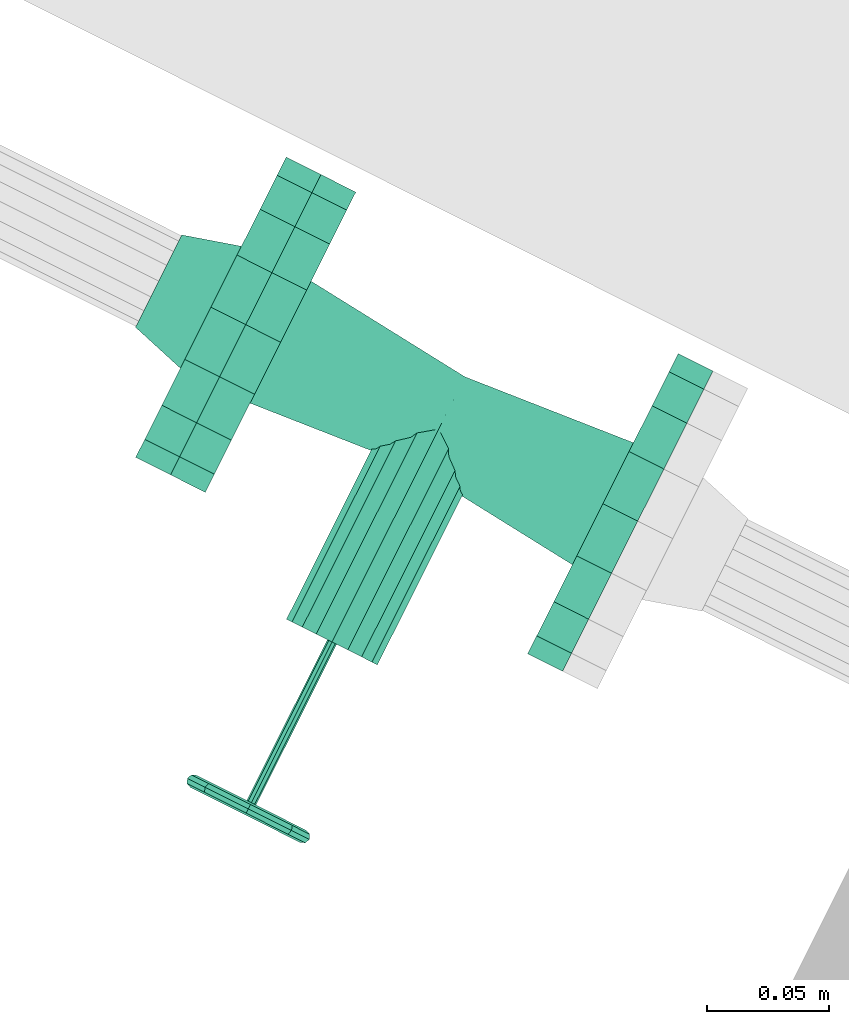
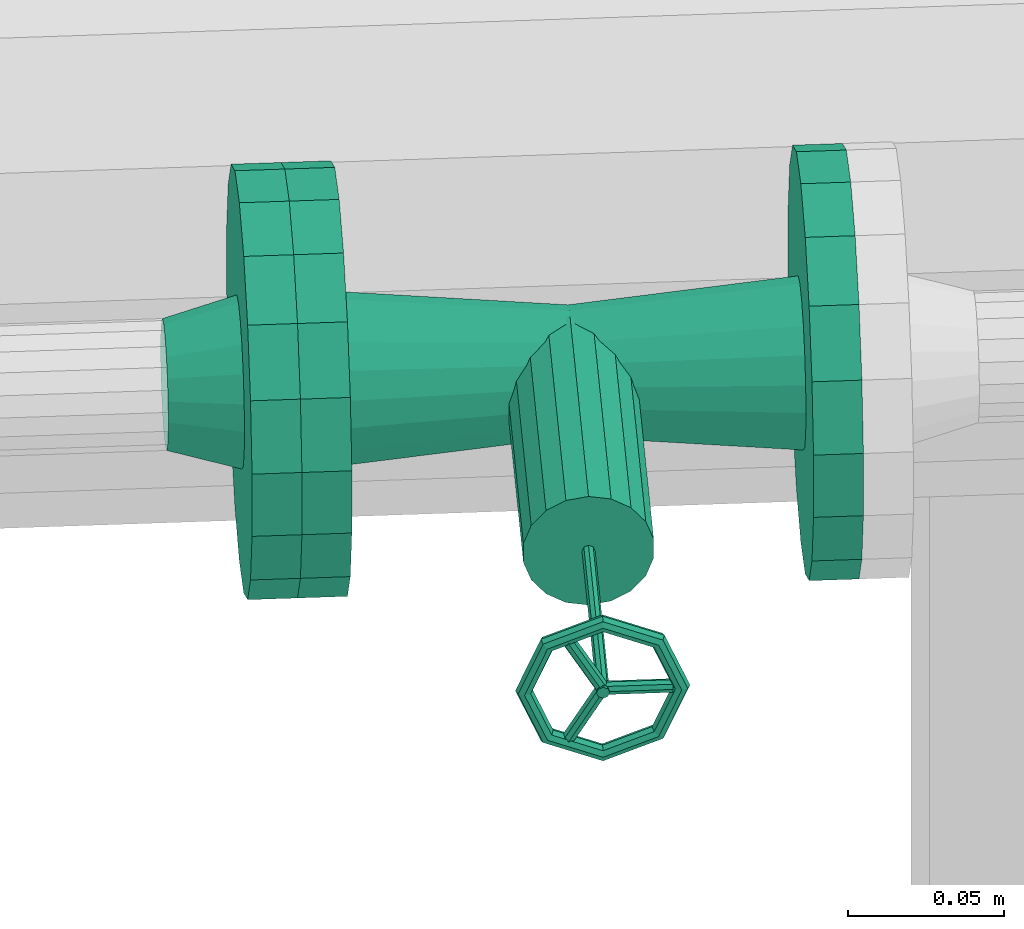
# One storey, part 86 of 206: 1 flow controller, 1 flow fitting.
"""IFC2X3 building model written with IfcOpenShell, lengths in metres."""

from ifc_helpers import new_model, si_unit, derived_unit, direction, frame, origin, place, context, subcontext, project, spatial, face_set, surface_model, source, transform, mapped, material, type_object, type_shapes, element, save


model = new_model("IFC2X3")

# Units and contexts
model_context = context("Model", 3, precision=5.2338327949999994e-05, world=origin(), true_north=direction((0.0, 1.0)))
body_context = subcontext(model_context, "Body", "Model", "MODEL_VIEW")
ifc_project = project(units=[si_unit("LENGTHUNIT", "METRE"), si_unit("AREAUNIT", "SQUARE_METRE"), si_unit("VOLUMEUNIT", "CUBIC_METRE"), si_unit("MASSUNIT", "GRAM", prefix="KILO"), si_unit("PLANEANGLEUNIT", "RADIAN"), derived_unit("THERMALTRANSMITTANCEUNIT", [(si_unit("MASSUNIT", "GRAM", prefix="KILO"), 1), (si_unit("THERMODYNAMICTEMPERATUREUNIT", "KELVIN"), -1), (si_unit("TIMEUNIT", "SECOND"), -3)])], contexts=[model_context])

# Site, building, storey
site_placement = place(None, frame((0.0, 0.0, 0.0), z_axis=(0.0, 0.0, 1.0), x_axis=(0.8939966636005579, -0.4480736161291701, 0.0)))
site = spatial("IfcSite", under=ifc_project, at=site_placement, Name="Default", CompositionType="ELEMENT")
building_placement = place(site_placement, origin())
building = spatial("IfcBuilding", under=site, at=building_placement, CompositionType="ELEMENT")
storey_placement = place(building_placement, origin())
storey = spatial("IfcBuildingStorey", under=building, at=storey_placement, Name="Erdgeschoss", CompositionType="ELEMENT", Elevation=0.0)

# Flow controller
ifc_material = material(Name="IfcSurfaceStyle #352577")
distribution_element_type_1 = type_object("IfcDistributionElementType", Name="Ventil 615460:Ventil 615460", material=ifc_material)
shared_shape_1 = source(origin(), body_context, "Body", "SurfaceModel", [
    surface_model("IfcFaceBasedSurfaceModel", [(28.668665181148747, 7.899962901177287, 2.6331641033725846), (28.668665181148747, 7.897983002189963, 2.6323440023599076), (28.68788427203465, 7.897983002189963, 2.624383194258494), (28.688464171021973, 7.899962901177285, 2.6249630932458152), (28.69584508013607, 7.89798300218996, 2.6051641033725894), (28.69666518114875, 7.89996290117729, 2.6051641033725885), (28.687884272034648, 7.897983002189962, 2.5859450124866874), (28.688464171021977, 7.8999629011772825, 2.5853651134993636), (28.668665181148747, 7.897983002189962, 2.577984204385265), (28.668665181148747, 7.899962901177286, 2.5771641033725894), (28.64944609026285, 7.897983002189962, 2.585945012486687), (28.648866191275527, 7.899962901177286, 2.5853651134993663), (28.641485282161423, 7.897983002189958, 2.6051641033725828), (28.640665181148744, 7.899962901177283, 2.605164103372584), (28.649446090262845, 7.897983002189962, 2.624383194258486), (28.648866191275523, 7.899962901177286, 2.6249630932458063), (28.668665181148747, 7.897162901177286, 2.6303641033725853), (28.686484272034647, 7.8971629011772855, 2.6229831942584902), (28.693865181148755, 7.897162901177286, 2.605164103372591), (28.686484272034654, 7.897162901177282, 2.5873450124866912), (28.66866518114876, 7.897162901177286, 2.579964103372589), (28.650846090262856, 7.8971629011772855, 2.5873450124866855), (28.643465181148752, 7.897162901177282, 2.6051641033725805), (28.650846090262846, 7.897162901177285, 2.622983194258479), (28.668665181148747, 7.897983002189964, 2.628384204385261), (28.685084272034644, 7.897983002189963, 2.6215831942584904), (28.691885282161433, 7.897983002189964, 2.6051641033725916), (28.68508427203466, 7.897983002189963, 2.588745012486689), (28.66866518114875, 7.8979830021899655, 2.581944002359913), (28.65224609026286, 7.897983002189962, 2.5887450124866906), (28.645445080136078, 7.89798300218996, 2.605164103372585), (28.65224609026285, 7.897983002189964, 2.6215831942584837), (28.668665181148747, 7.899962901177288, 2.627564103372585), (28.684504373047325, 7.899962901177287, 2.6210032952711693), (28.69106518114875, 7.899962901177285, 2.605164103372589), (28.68450437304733, 7.899962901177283, 2.5893249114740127), (28.66866518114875, 7.899962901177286, 2.5827641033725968), (28.652825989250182, 7.899962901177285, 2.589324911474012), (28.646265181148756, 7.899962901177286, 2.6051641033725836), (28.65282598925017, 7.899962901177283, 2.6210032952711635), (28.668665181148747, 7.901942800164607, 2.6283842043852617), (28.685084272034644, 7.9019428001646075, 2.6215831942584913), (28.69188528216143, 7.901942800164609, 2.605164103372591), (28.685084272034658, 7.90194280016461, 2.5887450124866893), (28.66866518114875, 7.901942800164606, 2.5819440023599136), (28.65224609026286, 7.9019428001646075, 2.588745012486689), (28.645445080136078, 7.901942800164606, 2.6051641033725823), (28.65224609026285, 7.901942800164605, 2.6215831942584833), (28.668665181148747, 7.9027629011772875, 2.6303641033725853), (28.686484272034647, 7.902762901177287, 2.6229831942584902), (28.69386518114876, 7.902762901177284, 2.6051641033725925), (28.686484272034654, 7.902762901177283, 2.5873450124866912), (28.66866518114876, 7.902762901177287, 2.579964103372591), (28.650846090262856, 7.902762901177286, 2.5873450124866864), (28.643465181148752, 7.902762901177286, 2.6051641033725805), (28.650846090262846, 7.902762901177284, 2.6229831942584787), (28.668665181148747, 7.901942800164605, 2.6323440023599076), (28.68788427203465, 7.9019428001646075, 2.6243831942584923), (28.69584508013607, 7.9019428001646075, 2.6051641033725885), (28.68788427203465, 7.901942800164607, 2.585945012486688), (28.66866518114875, 7.901942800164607, 2.577984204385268), (28.64944609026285, 7.901942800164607, 2.5859450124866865), (28.641485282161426, 7.901942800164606, 2.6051641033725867), (28.649446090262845, 7.901942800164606, 2.6243831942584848), (28.668665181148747, 7.899962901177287, 2.6029241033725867), (28.668665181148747, 7.901546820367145, 2.6035801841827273), (28.69106518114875, 7.901546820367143, 2.603580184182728), (28.691065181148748, 7.899962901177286, 2.602924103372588), (28.668665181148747, 7.902202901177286, 2.6051641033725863), (28.691065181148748, 7.902202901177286, 2.6051641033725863), (28.668665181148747, 7.901546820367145, 2.6067480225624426), (28.691065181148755, 7.901546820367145, 2.6067480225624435), (28.668665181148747, 7.899962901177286, 2.607404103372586), (28.691065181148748, 7.899962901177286, 2.6074041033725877), (28.668665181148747, 7.898378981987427, 2.6067480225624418), (28.69106518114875, 7.898378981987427, 2.606748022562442), (28.668665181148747, 7.897722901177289, 2.6051641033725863), (28.691065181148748, 7.897722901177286, 2.6051641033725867), (28.668665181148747, 7.8983789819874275, 2.6035801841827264), (28.691065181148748, 7.8983789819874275, 2.6035801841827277), (28.666725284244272, 7.899962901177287, 2.606284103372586), (28.667293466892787, 7.901546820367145, 2.605956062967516), (28.65609346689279, 7.901546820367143, 2.5865570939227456), (28.655525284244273, 7.899962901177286, 2.586885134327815), (28.657465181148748, 7.902202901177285, 2.5857651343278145), (28.670036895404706, 7.9015468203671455, 2.6043721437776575), (28.6588368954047, 7.901546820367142, 2.5849731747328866), (28.670605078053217, 7.899962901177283, 2.6040441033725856), (28.659405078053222, 7.899962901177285, 2.5846451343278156), (28.670036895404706, 7.898378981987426, 2.604372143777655), (28.658836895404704, 7.898378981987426, 2.5849731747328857), (28.657465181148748, 7.897722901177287, 2.585765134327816), (28.66729346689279, 7.8983789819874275, 2.605956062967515), (28.656093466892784, 7.8983789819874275, 2.5865570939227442), (28.670605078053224, 7.899962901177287, 2.6062841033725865), (28.670036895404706, 7.9015468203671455, 2.605956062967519), (28.658836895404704, 7.9015468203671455, 2.6253550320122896), (28.659405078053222, 7.899962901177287, 2.6256830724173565), (28.657465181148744, 7.902202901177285, 2.6245630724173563), (28.66729346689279, 7.901546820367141, 2.604372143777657), (28.65609346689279, 7.901546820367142, 2.6237711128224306), (28.666725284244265, 7.899962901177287, 2.6040441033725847), (28.655525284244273, 7.899962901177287, 2.6234430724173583), (28.66729346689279, 7.8983789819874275, 2.6043721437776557), (28.65609346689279, 7.8983789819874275, 2.62377111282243), (28.657465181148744, 7.897722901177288, 2.62456307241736), (28.670036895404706, 7.898378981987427, 2.605956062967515), (28.658836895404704, 7.8983789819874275, 2.6253550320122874), (28.578665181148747, 8.077162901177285, 2.535164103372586), (28.578665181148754, 8.101104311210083, 2.5393856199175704), (28.594665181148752, 8.10110431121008, 2.5393856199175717), (28.594665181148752, 8.077162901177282, 2.535164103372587), (28.57866518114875, 8.122158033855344, 2.55154099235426), (28.594665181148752, 8.122158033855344, 2.5515409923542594), (28.578665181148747, 8.137784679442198, 2.5701641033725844), (28.594665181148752, 8.137784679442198, 2.570164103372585), (28.578665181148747, 8.14609944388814, 2.5930087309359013), (28.594665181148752, 8.146099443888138, 2.5930087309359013), (28.57866518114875, 8.14609944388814, 2.61731947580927), (28.594665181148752, 8.146099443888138, 2.61731947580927), (28.578665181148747, 8.137784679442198, 2.6401641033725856), (28.594665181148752, 8.137784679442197, 2.6401641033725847), (28.578665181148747, 8.122158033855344, 2.6587872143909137), (28.594665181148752, 8.122158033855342, 2.658787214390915), (28.57866518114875, 8.10110431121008, 2.6709425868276), (28.594665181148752, 8.10110431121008, 2.670942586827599), (28.57866518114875, 8.077162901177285, 2.675164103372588), (28.594665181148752, 8.077162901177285, 2.675164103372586), (28.57866518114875, 8.053221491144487, 2.670942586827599), (28.594665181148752, 8.053221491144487, 2.670942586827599), (28.57866518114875, 8.03216776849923, 2.6587872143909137), (28.594665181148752, 8.03216776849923, 2.658787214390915), (28.578665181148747, 8.016541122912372, 2.640164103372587), (28.594665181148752, 8.016541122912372, 2.640164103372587), (28.578665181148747, 8.008226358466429, 2.6173194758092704), (28.594665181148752, 8.008226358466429, 2.6173194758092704), (28.578665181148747, 8.008226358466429, 2.5930087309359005), (28.594665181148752, 8.008226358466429, 2.5930087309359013), (28.578665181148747, 8.016541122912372, 2.5701641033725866), (28.594665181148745, 8.016541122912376, 2.570164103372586), (28.578665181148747, 8.03216776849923, 2.5515409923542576), (28.594665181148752, 8.03216776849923, 2.5515409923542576), (28.578665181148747, 8.05322149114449, 2.539385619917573), (28.594665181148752, 8.053221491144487, 2.5393856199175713), (28.578665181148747, 8.077162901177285, 2.6051641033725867), (28.594665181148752, 8.077162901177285, 2.6051641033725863), (28.59466518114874, 8.105162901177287, 2.6051641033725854), (28.594665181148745, 8.10347429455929, 2.6147406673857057), (28.668665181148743, 8.097084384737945, 2.6124149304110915), (28.668665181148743, 8.098362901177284, 2.6051641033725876), (28.594665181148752, 8.098612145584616, 2.623162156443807), (28.668665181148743, 8.093403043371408, 2.61879120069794), (28.59466518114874, 8.091162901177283, 2.629412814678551), (28.668665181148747, 8.087762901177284, 2.6235238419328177), (28.594665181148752, 8.082025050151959, 2.6327387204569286), (28.668665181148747, 8.080844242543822, 2.626042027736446), (28.594665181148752, 8.072300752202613, 2.6327387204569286), (28.668665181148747, 8.073481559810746, 2.626042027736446), (28.59466518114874, 8.063162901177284, 2.6294128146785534), (28.668665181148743, 8.066562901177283, 2.6235238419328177), (28.594665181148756, 8.055713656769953, 2.623162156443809), (28.668665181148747, 8.060922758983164, 2.6187912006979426), (28.594665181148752, 8.050851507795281, 2.6147406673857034), (28.668665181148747, 8.057241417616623, 2.6124149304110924), (28.594665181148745, 8.049162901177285, 2.6051641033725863), (28.668665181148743, 8.055962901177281, 2.6051641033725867), (28.594665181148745, 8.050851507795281, 2.5955875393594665), (28.668665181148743, 8.057241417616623, 2.5979132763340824), (28.594665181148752, 8.055713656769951, 2.5871660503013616), (28.668665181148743, 8.060922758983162, 2.5915370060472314), (28.594665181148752, 8.063162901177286, 2.5809153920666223), (28.668665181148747, 8.066562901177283, 2.586804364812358), (28.594665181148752, 8.072300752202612, 2.5775894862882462), (28.668665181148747, 8.073481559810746, 2.5842861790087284), (28.594665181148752, 8.08202505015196, 2.577589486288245), (28.668665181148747, 8.080844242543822, 2.584286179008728), (28.59466518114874, 8.091162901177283, 2.58091539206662), (28.668665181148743, 8.087762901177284, 2.5868043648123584), (28.594665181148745, 8.098612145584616, 2.5871660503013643), (28.668665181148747, 8.093403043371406, 2.5915370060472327), (28.594665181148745, 8.103474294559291, 2.595587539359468), (28.668665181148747, 8.097084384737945, 2.5979132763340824), (28.742665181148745, 8.103474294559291, 2.6147406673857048), (28.742665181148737, 8.105162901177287, 2.6051641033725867), (28.742665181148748, 8.098612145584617, 2.623162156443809), (28.742665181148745, 8.091162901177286, 2.6294128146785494), (28.742665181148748, 8.08202505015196, 2.6327387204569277), (28.742665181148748, 8.072300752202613, 2.632738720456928), (28.742665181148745, 8.063162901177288, 2.6294128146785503), (28.742665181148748, 8.055713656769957, 2.623162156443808), (28.742665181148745, 8.050851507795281, 2.6147406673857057), (28.742665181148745, 8.049162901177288, 2.6051641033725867), (28.742665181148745, 8.050851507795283, 2.595587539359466), (28.742665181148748, 8.055713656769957, 2.5871660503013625), (28.742665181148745, 8.06316290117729, 2.58091539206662), (28.742665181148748, 8.072300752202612, 2.577589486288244), (28.742665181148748, 8.08202505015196, 2.577589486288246), (28.742665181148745, 8.091162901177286, 2.5809153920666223), (28.742665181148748, 8.098612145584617, 2.5871660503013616), (28.742665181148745, 8.10347429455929, 2.595587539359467), (28.74266518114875, 8.077162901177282, 2.535164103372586), (28.742665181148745, 8.101104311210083, 2.539385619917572), (28.758665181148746, 8.10110431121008, 2.5393856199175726), (28.758665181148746, 8.077162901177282, 2.5351641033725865), (28.74266518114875, 8.122158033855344, 2.55154099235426), (28.758665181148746, 8.122158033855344, 2.5515409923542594), (28.742665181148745, 8.137784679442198, 2.570164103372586), (28.758665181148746, 8.137784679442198, 2.5701641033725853), (28.74266518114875, 8.14609944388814, 2.5930087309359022), (28.758665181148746, 8.146099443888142, 2.5930087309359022), (28.742665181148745, 8.14609944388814, 2.6173194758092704), (28.758665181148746, 8.146099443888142, 2.61731947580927), (28.742665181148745, 8.137784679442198, 2.6401641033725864), (28.75866518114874, 8.137784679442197, 2.640164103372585), (28.742665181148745, 8.122158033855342, 2.6587872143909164), (28.758665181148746, 8.122158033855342, 2.6587872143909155), (28.742665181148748, 8.101104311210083, 2.6709425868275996), (28.758665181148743, 8.101104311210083, 2.670942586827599), (28.742665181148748, 8.077162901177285, 2.6751641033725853), (28.758665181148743, 8.077162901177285, 2.6751641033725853), (28.742665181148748, 8.053221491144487, 2.6709425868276), (28.758665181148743, 8.053221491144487, 2.6709425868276), (28.74266518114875, 8.032167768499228, 2.658787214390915), (28.758665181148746, 8.03216776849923, 2.6587872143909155), (28.742665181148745, 8.016541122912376, 2.640164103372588), (28.758665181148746, 8.016541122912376, 2.640164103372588), (28.74266518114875, 8.008226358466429, 2.6173194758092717), (28.758665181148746, 8.008226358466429, 2.6173194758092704), (28.742665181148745, 8.008226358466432, 2.593008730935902), (28.758665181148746, 8.008226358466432, 2.5930087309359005), (28.742665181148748, 8.016541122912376, 2.5701641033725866), (28.758665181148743, 8.016541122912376, 2.570164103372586), (28.742665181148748, 8.03216776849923, 2.551540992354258), (28.758665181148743, 8.03216776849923, 2.551540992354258), (28.74266518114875, 8.05322149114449, 2.539385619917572), (28.758665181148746, 8.05322149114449, 2.5393856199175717), (28.742665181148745, 8.077162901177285, 2.6051641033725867), (28.758665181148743, 8.077162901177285, 2.6051641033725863), (28.668665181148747, 8.077162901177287, 2.583964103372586), (28.67591600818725, 8.077162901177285, 2.5852426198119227), (28.67591600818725, 7.976562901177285, 2.585242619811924), (28.668665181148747, 7.976562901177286, 2.5839641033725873), (28.682292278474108, 8.077162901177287, 2.588923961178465), (28.682292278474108, 7.976562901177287, 2.588923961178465), (28.687024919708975, 8.077162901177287, 2.5945641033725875), (28.687024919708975, 7.976562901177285, 2.594564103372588), (28.68954310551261, 8.077162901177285, 2.601482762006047), (28.68954310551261, 7.976562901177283, 2.6014827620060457), (28.68954310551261, 8.077162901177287, 2.608845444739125), (28.68954310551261, 7.976562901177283, 2.6088454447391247), (28.68702491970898, 8.077162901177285, 2.6157641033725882), (28.68702491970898, 7.9765629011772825, 2.6157641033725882), (28.682292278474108, 8.077162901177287, 2.6214042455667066), (28.682292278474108, 7.976562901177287, 2.6214042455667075), (28.67591600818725, 8.077162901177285, 2.6250855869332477), (28.67591600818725, 7.976562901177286, 2.6250855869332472), (28.668665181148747, 8.077162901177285, 2.6263641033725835), (28.668665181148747, 7.976562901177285, 2.6263641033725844), (28.66141435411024, 8.077162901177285, 2.6250855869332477), (28.66141435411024, 7.976562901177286, 2.6250855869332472), (28.655038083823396, 8.077162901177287, 2.621404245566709), (28.655038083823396, 7.976562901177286, 2.6214042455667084), (28.65030544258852, 8.077162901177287, 2.6157641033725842), (28.65030544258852, 7.976562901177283, 2.6157641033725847), (28.647787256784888, 8.077162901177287, 2.608845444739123), (28.647787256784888, 7.976562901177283, 2.608845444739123), (28.647787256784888, 8.077162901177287, 2.601482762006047), (28.647787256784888, 7.976562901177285, 2.601482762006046), (28.65030544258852, 8.077162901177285, 2.5945641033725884), (28.65030544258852, 7.976562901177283, 2.5945641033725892), (28.6550380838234, 8.077162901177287, 2.5889239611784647), (28.655038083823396, 7.976562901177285, 2.588923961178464), (28.66141435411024, 8.077162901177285, 2.5852426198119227), (28.661414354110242, 7.976562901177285, 2.585242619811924), (28.668665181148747, 8.077162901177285, 2.6051641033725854), (28.668665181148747, 7.976562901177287, 2.605164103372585), (28.668665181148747, 7.976562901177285, 2.6030441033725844), (28.67016424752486, 7.976562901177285, 2.6036650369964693), (28.67016424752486, 7.897162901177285, 2.603665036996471), (28.668665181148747, 7.8971629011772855, 2.6030441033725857), (28.67078518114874, 7.976562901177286, 2.605164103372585), (28.67078518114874, 7.897162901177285, 2.6051641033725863), (28.670164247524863, 7.976562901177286, 2.606663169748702), (28.67016424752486, 7.897162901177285, 2.6066631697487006), (28.668665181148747, 7.976562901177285, 2.6072841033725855), (28.668665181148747, 7.8971629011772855, 2.607284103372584), (28.66716611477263, 7.9765629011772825, 2.6066631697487), (28.66716611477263, 7.897162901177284, 2.6066631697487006), (28.66654518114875, 7.976562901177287, 2.605164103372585), (28.66654518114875, 7.8971629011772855, 2.6051641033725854), (28.66716611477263, 7.976562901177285, 2.6036650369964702), (28.66716611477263, 7.897162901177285, 2.603665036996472), (28.668665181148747, 7.8971629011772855, 2.6051641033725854)], [face_set([[[0, 1, 2, 3]], [[3, 2, 4, 5]], [[5, 4, 6, 7]], [[7, 6, 8, 9]], [[9, 8, 10, 11]], [[11, 10, 12, 13]], [[13, 12, 14, 15]], [[15, 14, 1, 0]], [[1, 16, 17, 2]], [[2, 17, 18, 4]], [[4, 18, 19, 6]], [[6, 19, 20, 8]], [[8, 20, 21, 10]], [[10, 21, 22, 12]], [[12, 22, 23, 14]], [[14, 23, 16, 1]], [[16, 24, 25, 17]], [[17, 25, 26, 18]], [[18, 26, 27, 19]], [[19, 27, 28, 20]], [[20, 28, 29, 21]], [[21, 29, 30, 22]], [[22, 30, 31, 23]], [[23, 31, 24, 16]], [[24, 32, 33, 25]], [[25, 33, 34, 26]], [[26, 34, 35, 27]], [[27, 35, 36, 28]], [[28, 36, 37, 29]], [[29, 37, 38, 30]], [[30, 38, 39, 31]], [[31, 39, 32, 24]], [[32, 40, 41, 33]], [[33, 41, 42, 34]], [[34, 42, 43, 35]], [[35, 43, 44, 36]], [[36, 44, 45, 37]], [[37, 45, 46, 38]], [[38, 46, 47, 39]], [[39, 47, 40, 32]], [[40, 48, 49, 41]], [[41, 49, 50, 42]], [[42, 50, 51, 43]], [[43, 51, 52, 44]], [[44, 52, 53, 45]], [[45, 53, 54, 46]], [[46, 54, 55, 47]], [[47, 55, 48, 40]], [[48, 56, 57, 49]], [[49, 57, 58, 50]], [[50, 58, 59, 51]], [[51, 59, 60, 52]], [[52, 60, 61, 53]], [[53, 61, 62, 54]], [[54, 62, 63, 55]], [[55, 63, 56, 48]], [[56, 0, 3, 57]], [[57, 3, 5, 58]], [[58, 5, 7, 59]], [[59, 7, 9, 60]], [[60, 9, 11, 61]], [[61, 11, 13, 62]], [[62, 13, 15, 63]], [[63, 15, 0, 56]], [[64, 65, 66, 67]], [[65, 68, 69, 66]], [[68, 70, 71, 69]], [[70, 72, 73, 71]], [[72, 74, 75, 73]], [[74, 76, 77, 75]], [[76, 78, 79, 77]], [[78, 64, 67, 79]], [[80, 81, 82, 83]], [[81, 68, 84, 82]], [[68, 85, 86, 84]], [[85, 87, 88, 86]], [[87, 89, 90, 88]], [[89, 76, 91, 90]], [[76, 92, 93, 91]], [[92, 80, 83, 93]], [[94, 95, 96, 97]], [[95, 68, 98, 96]], [[68, 99, 100, 98]], [[99, 101, 102, 100]], [[101, 103, 104, 102]], [[103, 76, 105, 104]], [[76, 106, 107, 105]], [[106, 94, 97, 107]], [[108, 109, 110, 111]], [[109, 112, 113, 110]], [[112, 114, 115, 113]], [[114, 116, 117, 115]], [[116, 118, 119, 117]], [[118, 120, 121, 119]], [[120, 122, 123, 121]], [[122, 124, 125, 123]], [[124, 126, 127, 125]], [[126, 128, 129, 127]], [[128, 130, 131, 129]], [[130, 132, 133, 131]], [[132, 134, 135, 133]], [[134, 136, 137, 135]], [[136, 138, 139, 137]], [[138, 140, 141, 139]], [[140, 142, 143, 141]], [[142, 108, 111, 143]], [[144, 109, 108]], [[144, 112, 109]], [[144, 114, 112]], [[144, 116, 114]], [[144, 118, 116]], [[144, 120, 118]], [[144, 122, 120]], [[144, 124, 122]], [[144, 126, 124]], [[144, 128, 126]], [[144, 130, 128]], [[144, 132, 130]], [[144, 134, 132]], [[144, 136, 134]], [[144, 138, 136]], [[144, 140, 138]], [[144, 142, 140]], [[144, 108, 142]], [[145, 143, 111]], [[145, 141, 143]], [[145, 139, 141]], [[145, 137, 139]], [[145, 135, 137]], [[145, 133, 135]], [[145, 131, 133]], [[145, 129, 131]], [[145, 127, 129]], [[145, 125, 127]], [[145, 123, 125]], [[145, 121, 123]], [[145, 119, 121]], [[145, 117, 119]], [[145, 115, 117]], [[145, 113, 115]], [[145, 110, 113]], [[145, 111, 110]], [[146, 147, 148, 149]], [[147, 150, 151, 148]], [[150, 152, 153, 151]], [[152, 154, 155, 153]], [[154, 156, 157, 155]], [[156, 158, 159, 157]], [[158, 160, 161, 159]], [[160, 162, 163, 161]], [[162, 164, 165, 163]], [[164, 166, 167, 165]], [[166, 168, 169, 167]], [[168, 170, 171, 169]], [[170, 172, 173, 171]], [[172, 174, 175, 173]], [[174, 176, 177, 175]], [[176, 178, 179, 177]], [[178, 180, 181, 179]], [[180, 146, 149, 181]], [[149, 148, 182, 183]], [[148, 151, 184, 182]], [[151, 153, 185, 184]], [[153, 155, 186, 185]], [[155, 157, 187, 186]], [[157, 159, 188, 187]], [[159, 161, 189, 188]], [[161, 163, 190, 189]], [[163, 165, 191, 190]], [[165, 167, 192, 191]], [[167, 169, 193, 192]], [[169, 171, 194, 193]], [[171, 173, 195, 194]], [[173, 175, 196, 195]], [[175, 177, 197, 196]], [[177, 179, 198, 197]], [[179, 181, 199, 198]], [[181, 149, 183, 199]], [[200, 201, 202, 203]], [[201, 204, 205, 202]], [[204, 206, 207, 205]], [[206, 208, 209, 207]], [[208, 210, 211, 209]], [[210, 212, 213, 211]], [[212, 214, 215, 213]], [[214, 216, 217, 215]], [[216, 218, 219, 217]], [[218, 220, 221, 219]], [[220, 222, 223, 221]], [[222, 224, 225, 223]], [[224, 226, 227, 225]], [[226, 228, 229, 227]], [[228, 230, 231, 229]], [[230, 232, 233, 231]], [[232, 234, 235, 233]], [[234, 200, 203, 235]], [[236, 201, 200]], [[236, 204, 201]], [[236, 206, 204]], [[236, 208, 206]], [[236, 210, 208]], [[236, 212, 210]], [[236, 214, 212]], [[236, 216, 214]], [[236, 218, 216]], [[236, 220, 218]], [[236, 222, 220]], [[236, 224, 222]], [[236, 226, 224]], [[236, 228, 226]], [[236, 230, 228]], [[236, 232, 230]], [[236, 234, 232]], [[236, 200, 234]], [[237, 235, 203]], [[237, 233, 235]], [[237, 231, 233]], [[237, 229, 231]], [[237, 227, 229]], [[237, 225, 227]], [[237, 223, 225]], [[237, 221, 223]], [[237, 219, 221]], [[237, 217, 219]], [[237, 215, 217]], [[237, 213, 215]], [[237, 211, 213]], [[237, 209, 211]], [[237, 207, 209]], [[237, 205, 207]], [[237, 202, 205]], [[237, 203, 202]], [[238, 239, 240, 241]], [[239, 242, 243, 240]], [[242, 244, 245, 243]], [[244, 246, 247, 245]], [[246, 248, 249, 247]], [[248, 250, 251, 249]], [[250, 252, 253, 251]], [[252, 254, 255, 253]], [[254, 256, 257, 255]], [[256, 258, 259, 257]], [[258, 260, 261, 259]], [[260, 262, 263, 261]], [[262, 264, 265, 263]], [[264, 266, 267, 265]], [[266, 268, 269, 267]], [[268, 270, 271, 269]], [[270, 272, 273, 271]], [[272, 238, 241, 273]], [[274, 239, 238]], [[274, 242, 239]], [[274, 244, 242]], [[274, 246, 244]], [[274, 248, 246]], [[274, 250, 248]], [[274, 252, 250]], [[274, 254, 252]], [[274, 256, 254]], [[274, 258, 256]], [[274, 260, 258]], [[274, 262, 260]], [[274, 264, 262]], [[274, 266, 264]], [[274, 268, 266]], [[274, 270, 268]], [[274, 272, 270]], [[274, 238, 272]], [[275, 273, 241]], [[275, 271, 273]], [[275, 269, 271]], [[275, 267, 269]], [[275, 265, 267]], [[275, 263, 265]], [[275, 261, 263]], [[275, 259, 261]], [[275, 257, 259]], [[275, 255, 257]], [[275, 253, 255]], [[275, 251, 253]], [[275, 249, 251]], [[275, 247, 249]], [[275, 245, 247]], [[275, 243, 245]], [[275, 240, 243]], [[275, 241, 240]], [[276, 277, 278, 279]], [[277, 280, 281, 278]], [[280, 282, 283, 281]], [[282, 284, 285, 283]], [[284, 286, 287, 285]], [[286, 288, 289, 287]], [[288, 290, 291, 289]], [[290, 276, 279, 291]], [[292, 291, 279]], [[292, 289, 291]], [[292, 287, 289]], [[292, 285, 287]], [[292, 283, 285]], [[292, 281, 283]], [[292, 278, 281]], [[292, 279, 278]]])]),
])
type_shapes(distribution_element_type_1, [shared_shape_1])
flow_controller_placement = place(storey_placement, origin())
element("IfcFlowController", 1, at=flow_controller_placement, inside=storey, type_object=distribution_element_type_1, material=ifc_material, Name="Ventil", ObjectType="Ventil", context=body_context, shape_type="MappedRepresentation", body=[
    mapped(shared_shape_1, transform((0.0, 0.0, 0.0), scale=1.0)),
])

# Flow fitting
distribution_element_type_2 = type_object("IfcDistributionElementType", Name="Flansch 617588:Flansch 617588", material=ifc_material)
shared_shape_2 = source(origin(), body_context, "Body", "SurfaceModel", [
    surface_model("IfcFaceBasedSurfaceModel", [(28.57866518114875, 8.077162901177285, 2.6751641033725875), (28.57866518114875, 8.10110431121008, 2.6709425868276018), (28.56266518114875, 8.10110431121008, 2.6709425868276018), (28.56266518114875, 8.077162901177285, 2.6751641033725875), (28.57866518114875, 8.12215803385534, 2.6587872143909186), (28.56266518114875, 8.12215803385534, 2.6587872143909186), (28.57866518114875, 8.137784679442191, 2.64016410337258), (28.56266518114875, 8.137784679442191, 2.64016410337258), (28.57866518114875, 8.146099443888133, 2.6173194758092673), (28.56266518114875, 8.146099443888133, 2.6173194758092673), (28.57866518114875, 8.14609944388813, 2.5930087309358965), (28.56266518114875, 8.14609944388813, 2.5930087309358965), (28.57866518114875, 8.137784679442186, 2.570164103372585), (28.56266518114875, 8.137784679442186, 2.570164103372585), (28.57866518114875, 8.12215803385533, 2.5515409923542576), (28.56266518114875, 8.12215803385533, 2.5515409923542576), (28.57866518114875, 8.101104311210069, 2.539385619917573), (28.56266518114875, 8.101104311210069, 2.539385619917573), (28.57866518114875, 8.077162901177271, 2.5351641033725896), (28.56266518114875, 8.077162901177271, 2.5351641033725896), (28.57866518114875, 8.053221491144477, 2.5393856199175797), (28.56266518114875, 8.053221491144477, 2.5393856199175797), (28.57866518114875, 8.032167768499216, 2.551540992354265), (28.56266518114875, 8.032167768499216, 2.551540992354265), (28.57866518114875, 8.016541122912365, 2.5701641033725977), (28.56266518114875, 8.016541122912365, 2.5701641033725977), (28.57866518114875, 8.008226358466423, 2.59300873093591), (28.56266518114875, 8.008226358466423, 2.59300873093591), (28.57866518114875, 8.008226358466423, 2.6173194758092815), (28.56266518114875, 8.008226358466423, 2.6173194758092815), (28.57866518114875, 8.016541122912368, 2.6401641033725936), (28.56266518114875, 8.016541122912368, 2.6401641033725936), (28.57866518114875, 8.032167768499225, 2.658787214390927), (28.56266518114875, 8.032167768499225, 2.658787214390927), (28.57866518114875, 8.053221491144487, 2.670942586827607), (28.56266518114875, 8.053221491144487, 2.670942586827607), (28.56266518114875, 8.077162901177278, 2.6051641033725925), (28.56266518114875, 8.105162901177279, 2.6051641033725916), (28.56266518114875, 8.103474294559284, 2.5955875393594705), (28.53866518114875, 8.09708438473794, 2.59791327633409), (28.53866518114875, 8.098362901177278, 2.6051641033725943), (28.56266518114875, 8.098612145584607, 2.587166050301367), (28.53866518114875, 8.0934030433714, 2.591537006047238), (28.56266518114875, 8.091162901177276, 2.5809153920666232), (28.53866518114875, 8.087762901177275, 2.5868043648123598), (28.56266518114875, 8.08202505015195, 2.577589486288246), (28.53866518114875, 8.080844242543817, 2.584286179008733), (28.56266518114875, 8.072300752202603, 2.5775894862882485), (28.53866518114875, 8.073481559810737, 2.5842861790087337), (28.56266518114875, 8.063162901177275, 2.5809153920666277), (28.53866518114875, 8.066562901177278, 2.586804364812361), (28.56266518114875, 8.055713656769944, 2.587166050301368), (28.53866518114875, 8.060922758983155, 2.591537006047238), (28.56266518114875, 8.05085150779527, 2.595587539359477), (28.53866518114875, 8.057241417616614, 2.5979132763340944), (28.56266518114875, 8.049162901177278, 2.6051641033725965), (28.53866518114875, 8.055962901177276, 2.6051641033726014), (28.56266518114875, 8.050851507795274, 2.614740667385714), (28.53866518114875, 8.057241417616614, 2.612414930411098), (28.56266518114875, 8.05571365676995, 2.6231621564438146), (28.53866518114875, 8.060922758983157, 2.6187912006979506), (28.56266518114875, 8.06316290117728, 2.629412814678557), (28.53866518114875, 8.066562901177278, 2.6235238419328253), (28.56266518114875, 8.072300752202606, 2.6327387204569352), (28.53866518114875, 8.073481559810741, 2.6260420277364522), (28.56266518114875, 8.082025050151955, 2.6327387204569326), (28.53866518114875, 8.080844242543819, 2.6260420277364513), (28.56266518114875, 8.091162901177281, 2.6294128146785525), (28.53866518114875, 8.08776290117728, 2.623523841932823), (28.56266518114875, 8.098612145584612, 2.6231621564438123), (28.53866518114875, 8.093403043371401, 2.6187912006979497), (28.56266518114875, 8.103474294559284, 2.6147406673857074), (28.53866518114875, 8.09708438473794, 2.612414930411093)], [face_set([[[0, 1, 2, 3]], [[1, 4, 5, 2]], [[4, 6, 7, 5]], [[6, 8, 9, 7]], [[8, 10, 11, 9]], [[10, 12, 13, 11]], [[12, 14, 15, 13]], [[14, 16, 17, 15]], [[16, 18, 19, 17]], [[18, 20, 21, 19]], [[20, 22, 23, 21]], [[22, 24, 25, 23]], [[24, 26, 27, 25]], [[26, 28, 29, 27]], [[28, 30, 31, 29]], [[30, 32, 33, 31]], [[32, 34, 35, 33]], [[34, 0, 3, 35]], [[36, 35, 3]], [[36, 33, 35]], [[36, 31, 33]], [[36, 29, 31]], [[36, 27, 29]], [[36, 25, 27]], [[36, 23, 25]], [[36, 21, 23]], [[36, 19, 21]], [[36, 17, 19]], [[36, 15, 17]], [[36, 13, 15]], [[36, 11, 13]], [[36, 9, 11]], [[36, 7, 9]], [[36, 5, 7]], [[36, 2, 5]], [[36, 3, 2]], [[37, 38, 39, 40]], [[38, 41, 42, 39]], [[41, 43, 44, 42]], [[43, 45, 46, 44]], [[45, 47, 48, 46]], [[47, 49, 50, 48]], [[49, 51, 52, 50]], [[51, 53, 54, 52]], [[53, 55, 56, 54]], [[55, 57, 58, 56]], [[57, 59, 60, 58]], [[59, 61, 62, 60]], [[61, 63, 64, 62]], [[63, 65, 66, 64]], [[65, 67, 68, 66]], [[67, 69, 70, 68]], [[69, 71, 72, 70]], [[71, 37, 40, 72]]])]),
])
type_shapes(distribution_element_type_2, [shared_shape_2])
flow_fitting_placement = place(storey_placement, origin())
element("IfcFlowFitting", 2, at=flow_fitting_placement, inside=storey, type_object=distribution_element_type_2, material=ifc_material, Name="Flansch", ObjectType="Flansch", context=body_context, shape_type="MappedRepresentation", body=[
    mapped(shared_shape_2, transform((0.0, 0.0, 0.0), scale=1.0)),
])

save(model, "model.ifc")
